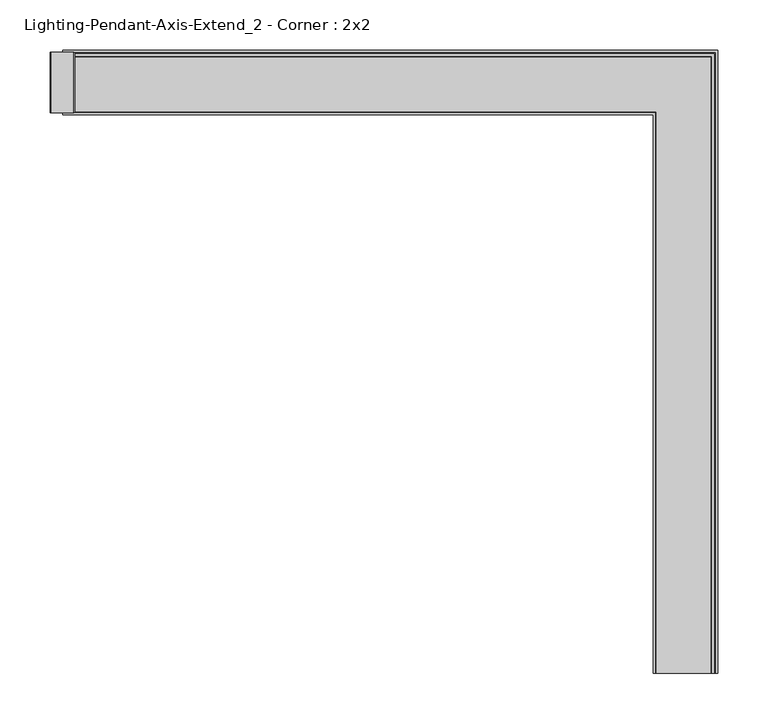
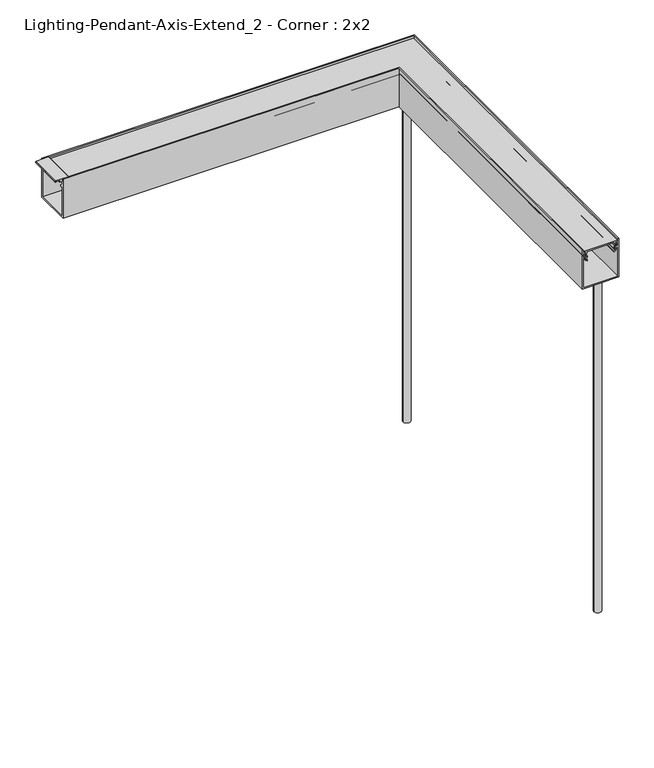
"""IFC4 building model written with IfcOpenShell, lengths in millimetres: light fixture geometry, Lighting-Pendant-Axis-Extend_2 - Corner : 2x2."""

from ifc_helpers import new_model, si_unit, frame, origin, place, context, project, spatial, polyline, circle_curve, ellipse_curve, outline, extrude, source, transform, mapped, element, save
from ifc_brep_helpers import plane_surface, cylinder_surface, revolved_surface, advanced_brep


def lighting_pendant_axis_extend_2_corner_2x2_4e912d8c(model_context):
    return source(origin(), model_context, "Body", "SolidModel", [
        advanced_brep(
        [(311.15, -577.596, 609.6), (298.45, -577.596, 609.6), (304.8, -577.596, 609.6), (311.15, -577.596, 0.0), (298.45, -577.596, 0.0), (304.8, -577.596, 0.0)],
        [
            (0, 1, circle_curve(frame((304.8, -577.596, 609.6), z_axis=(0.0, 0.0, 1.0), x_axis=(-1.0, 0.0, 0.0)), 6.35)),
            (1, 2),
            (2, 0),
            (1, 0, circle_curve(frame((304.8, -577.596, 609.6), z_axis=(0.0, 0.0, 1.0), x_axis=(-1.0, 0.0, 0.0)), 6.35)),
            (3, 4, circle_curve(frame((304.8, -577.596, 0.0), z_axis=(0.0, 0.0, 1.0), x_axis=(-1.0, 0.0, 0.0)), 6.35)),
            (4, 1),
            (0, 3),
            (4, 3, circle_curve(frame((304.8, -577.596, 0.0), z_axis=(0.0, 0.0, 1.0), x_axis=(-1.0, 0.0, 0.0)), 6.35)),
            (5, 4),
            (3, 5),
        ],
        [
            plane_surface(frame((304.8, -577.596, 609.6), z_axis=(0.0, 0.0, 1.0), x_axis=(-1.0, 0.0, 0.0))),
            cylinder_surface(frame((304.8, -577.596, 2913.8581012), z_axis=(0.0, 0.0, -1.0), x_axis=(-1.0, 0.0, 0.0)), 6.35),
            plane_surface(frame((304.8, -577.596, 0.0), z_axis=(0.0, 0.0, -1.0), x_axis=(-1.0, 0.0, 0.0))),
        ],
        [
            (0, [[1, 2, 3]]),
            (0, [[4, -3, -2]]),
            (1, [[5, 6, -1, 7]]),
            (1, [[8, -7, -4, -6]]),
            (2, [[9, -5, 10]]),
            (2, [[-10, -8, -9]]),
        ],
    ),
        extrude(outline(polyline([(679.9357861, -301.8536), (681.0375, -302.7781437), (681.0375, -325.1352563), (679.9357861, -326.0598), (678.46575, -326.0598), (678.46575, -325.26605), (679.2595, -325.26605), (679.2595, -318.7954), (676.4532981, -318.7954), (676.4532981, -309.118), (679.2595, -309.118), (679.2595, -302.64735), (678.46575, -302.64735), (678.46575, -301.8536), (679.9357861, -301.8536)])), frame((0.0, -29.972, 0.0), z_axis=(0.0, 1.0, 0.0), x_axis=(0.0, 0.0, 1.0)), (0.0, 0.0, 1.0), 59.944),
        advanced_brep(
        [(311.15, 0.0, 609.6), (298.45, 0.0, 609.6), (304.8, 0.0, 609.6), (311.15, 0.0, 0.0), (298.45, 0.0, 0.0), (304.8, 0.0, 0.0)],
        [
            (0, 1, circle_curve(frame((304.8, 0.0, 609.6), z_axis=(0.0, 0.0, 1.0), x_axis=(-1.0, 0.0, 0.0)), 6.35)),
            (1, 2),
            (2, 0),
            (1, 0, circle_curve(frame((304.8, 0.0, 609.6), z_axis=(0.0, 0.0, 1.0), x_axis=(-1.0, 0.0, 0.0)), 6.35)),
            (3, 4, circle_curve(frame((304.8, 0.0, 0.0), z_axis=(0.0, 0.0, 1.0), x_axis=(-1.0, 0.0, 0.0)), 6.35)),
            (4, 1),
            (0, 3),
            (4, 3, circle_curve(frame((304.8, 0.0, 0.0), z_axis=(0.0, 0.0, 1.0), x_axis=(-1.0, 0.0, 0.0)), 6.35)),
            (5, 4),
            (3, 5),
        ],
        [
            plane_surface(frame((304.8, 0.0, 609.6), z_axis=(0.0, 0.0, 1.0), x_axis=(-1.0, 0.0, 0.0))),
            cylinder_surface(frame((304.8, 0.0, 2913.8581012), z_axis=(0.0, 0.0, -1.0), x_axis=(-1.0, 0.0, 0.0)), 6.35),
            plane_surface(frame((304.8, 0.0, 0.0), z_axis=(0.0, 0.0, -1.0), x_axis=(-1.0, 0.0, 0.0))),
        ],
        [
            (0, [[1, 2, 3]]),
            (0, [[4, -3, -2]]),
            (1, [[5, 6, -1, 7]]),
            (1, [[8, -7, -4, -6]]),
            (2, [[9, -5, 10]]),
            (2, [[-10, -8, -9]]),
        ],
    ),
        advanced_brep(
        [(-304.8, -24.1727262, 676.1479991), (-304.8, -24.5114181, 669.6853737), (-304.8, -25.3818814, 663.0794903), (-304.8, -24.5665956, 661.5817575), (-304.8, -23.2119066, 660.3823555), (-304.8, -24.192808, 659.0543369), (-304.8, -25.7659952, 660.4471908), (-304.8, -27.1108807, 664.27776), (-304.8, -25.4753941, 668.3169658), (-304.8, -26.1394859, 670.1661789), (-304.8, -25.825992, 676.1479991), (-304.8, -28.829, 676.1479991), (-304.8, -28.829, 678.053), (-304.8, 28.829, 678.053), (-304.8, 28.829, 676.1479991), (-304.8, 25.825992, 676.1479991), (-304.8, 26.1394859, 670.1661789), (-304.8, 25.4753941, 668.3169658), (-304.8, 27.1108807, 664.27776), (-304.8, 25.7659952, 660.4471908), (-304.8, 24.192808, 659.0543369), (-304.8, 23.2119066, 660.3823555), (-304.8, 24.5665956, 661.5817575), (-304.8, 25.3818814, 663.0794903), (-304.8, 24.5114181, 669.6853737), (-304.8, 24.1727262, 676.1479991), (280.6272738, -586.7527, 676.1479991), (328.9727262, -586.7527, 676.1479991), (329.3114181, -586.7527, 669.6853737), (330.1818814, -586.7527, 663.0794903), (329.3665956, -586.7527, 661.5817575), (328.0119066, -586.7527, 660.3823555), (328.992808, -586.7527, 659.0543369), (330.5659952, -586.7527, 660.4471908), (331.9108807, -586.7527, 664.27776), (330.2753941, -586.7527, 668.3169658), (330.9394859, -586.7527, 670.1661789), (330.625992, -586.7527, 676.1479991), (333.629, -586.7527, 676.1479991), (333.629, -586.7527, 678.053), (275.971, -586.7527, 678.053), (275.971, -586.7527, 676.1479991), (278.974008, -586.7527, 676.1479991), (278.6605141, -586.7527, 670.1661789), (279.3246059, -586.7527, 668.3169658), (277.6891193, -586.7527, 664.27776), (279.0340048, -586.7527, 660.4471908), (280.607192, -586.7527, 659.0543369), (281.5880934, -586.7527, 660.3823555), (280.2334044, -586.7527, 661.5817575), (279.4181186, -586.7527, 663.0794903), (280.2885819, -586.7527, 669.6853737), (280.6272738, -24.1727262, 676.1479991), (280.2885819, -24.5114181, 669.6853737), (279.4181186, -25.3818814, 663.0794903), (280.2334044, -24.5665956, 661.5817575), (281.5880934, -23.2119066, 660.3823555), (280.607192, -24.192808, 659.0543369), (279.0340048, -25.7659952, 660.4471908), (277.6891193, -27.1108807, 664.27776), (279.3246059, -25.4753941, 668.3169658), (278.6605141, -26.1394859, 670.1661789), (278.974008, -25.825992, 676.1479991), (275.971, -28.829, 676.1479991), (275.971, -28.829, 678.053), (333.629, 28.829, 678.053), (333.629, 28.829, 676.1479991), (330.625992, 25.825992, 676.1479991), (330.9394859, 26.1394859, 670.1661789), (330.2753941, 25.4753941, 668.3169658), (331.9108807, 27.1108807, 664.27776), (330.5659952, 25.7659952, 660.4471908), (328.992808, 24.192808, 659.0543369), (328.0119066, 23.2119066, 660.3823555), (329.3665956, 24.5665956, 661.5817575), (330.1818814, 25.3818814, 663.0794903), (329.3114181, 24.5114181, 669.6853737), (328.9727262, 24.1727262, 676.1479991)],
        [
            (0, 1),
            (1, 2, circle_curve(frame((-304.8, -27.2542, 666.6865), z_axis=(-1.0, 0.0, 0.0), x_axis=(0.0, 0.6748971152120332, 0.7379118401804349)), 4.064)),
            (2, 3, circle_curve(frame((-304.8, -22.149344, 663.8683457), z_axis=(1.0, 0.0, 0.0), x_axis=(0.0, -0.9714904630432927, -0.23707863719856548)), 3.3274001)),
            (3, 4, circle_curve(frame((-304.8, -17.1303177, 668.6160708), z_axis=(1.0, 0.0, 0.0), x_axis=(0.0, -0.7264901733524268, -0.68717685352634)), 10.2362001)),
            (4, 5, circle_curve(frame((-304.8, -23.7023573, 659.7183462), z_axis=(-1.0, 0.0, 0.0), x_axis=(0.0, 0.5941256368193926, 0.8043722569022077)), 0.8255)),
            (5, 6, circle_curve(frame((-304.8, -17.1303169, 668.6160717), z_axis=(-1.0, 0.0, 0.0), x_axis=(0.0, -0.594125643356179, -0.8043722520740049)), 11.8872013)),
            (6, 7, circle_curve(frame((-304.8, -22.149344, 663.8683457), z_axis=(-1.0, 0.0, 0.0), x_axis=(0.0, -0.7264685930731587, -0.6871996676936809)), 4.9784001)),
            (7, 8, circle_curve(frame((-304.8, -27.2542, 666.6865), z_axis=(1.0, 0.0, 0.0), x_axis=(0.0, 0.05939464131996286, -0.9982345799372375)), 2.413)),
            (8, 9, circle_curve(frame((-304.8, -23.6029669, 670.0332456), z_axis=(-1.0, 0.0, 0.0), x_axis=(0.0, -0.7371760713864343, -0.675700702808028)), 2.54)),
            (9, 10),
            (10, 11),
            (11, 12),
            (12, 13),
            (13, 14),
            (14, 15),
            (15, 16),
            (16, 17, circle_curve(frame((-304.8, 23.6029669, 670.0332456), z_axis=(-1.0, 0.0, 0.0), x_axis=(0.0, 0.9986295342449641, 0.05233596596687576)), 2.54)),
            (17, 18, circle_curve(frame((-304.8, 27.2542, 666.6865), z_axis=(1.0, 0.0, 0.0), x_axis=(0.0, -0.7371760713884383, 0.6757007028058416)), 2.413)),
            (18, 19, circle_curve(frame((-304.8, 22.149344, 663.8683457), z_axis=(-1.0, 0.0, 0.0), x_axis=(0.0, 0.9966127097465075, 0.0822381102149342)), 4.9784001)),
            (19, 20, circle_curve(frame((-304.8, 17.1303169, 668.6160717), z_axis=(-1.0, 0.0, 0.0), x_axis=(0.0, 0.7264685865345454, -0.6871996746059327)), 11.8872013)),
            (20, 21, circle_curve(frame((-304.8, 23.7023573, 659.7183462), z_axis=(-1.0, 0.0, 0.0), x_axis=(0.0, 0.5941256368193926, -0.8043722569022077)), 0.8255)),
            (21, 22, circle_curve(frame((-304.8, 17.1303177, 668.6160708), z_axis=(1.0, 0.0, 0.0), x_axis=(0.0, 0.5941256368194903, -0.8043722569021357)), 10.2362001)),
            (22, 23, circle_curve(frame((-304.8, 22.149344, 663.8683457), z_axis=(1.0, 0.0, 0.0), x_axis=(0.0, 0.7265349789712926, -0.6871294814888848)), 3.3274001)),
            (23, 24, circle_curve(frame((-304.8, 27.2542, 666.6865), z_axis=(-1.0, 0.0, 0.0), x_axis=(0.0, -0.46070831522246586, -0.8875516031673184)), 4.064)),
            (24, 25),
            (25, 0),
            (26, 27),
            (27, 28),
            (28, 29, circle_curve(frame((332.0542, -586.7527, 666.6865), z_axis=(0.0, -1.0, 0.0), x_axis=(-0.46070831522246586, 0.0, -0.8875516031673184)), 4.064)),
            (29, 30, circle_curve(frame((326.949344, -586.7527, 663.8683457), z_axis=(0.0, 1.0, 0.0), x_axis=(0.7265349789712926, 0.0, -0.6871294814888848)), 3.3274001)),
            (30, 31, circle_curve(frame((321.9303177, -586.7527, 668.6160708), z_axis=(0.0, 1.0, 0.0), x_axis=(0.5941256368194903, 0.0, -0.8043722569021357)), 10.2362001)),
            (31, 32, circle_curve(frame((328.5023573, -586.7527, 659.7183462), z_axis=(0.0, -1.0, 0.0), x_axis=(0.5941256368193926, 0.0, -0.8043722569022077)), 0.8255)),
            (32, 33, circle_curve(frame((321.9303169, -586.7527, 668.6160717), z_axis=(0.0, -1.0, 0.0), x_axis=(0.7264685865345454, 0.0, -0.6871996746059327)), 11.8872013)),
            (33, 34, circle_curve(frame((326.949344, -586.7527, 663.8683457), z_axis=(0.0, -1.0, 0.0), x_axis=(0.9966127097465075, 0.0, 0.0822381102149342)), 4.9784001)),
            (34, 35, circle_curve(frame((332.0542, -586.7527, 666.6865), z_axis=(0.0, 1.0, 0.0), x_axis=(-0.7371760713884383, 0.0, 0.6757007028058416)), 2.413)),
            (35, 36, circle_curve(frame((328.4029669, -586.7527, 670.0332456), z_axis=(0.0, -1.0, 0.0), x_axis=(0.9986295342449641, 0.0, 0.05233596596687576)), 2.54)),
            (36, 37),
            (37, 38),
            (38, 39),
            (39, 40),
            (40, 41),
            (41, 42),
            (42, 43),
            (43, 44, circle_curve(frame((281.1970331, -586.7527, 670.0332456), z_axis=(0.0, -1.0, 0.0), x_axis=(-0.7371760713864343, 0.0, -0.675700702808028)), 2.54)),
            (44, 45, circle_curve(frame((277.5458, -586.7527, 666.6865), z_axis=(0.0, 1.0, 0.0), x_axis=(0.05939464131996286, 0.0, -0.9982345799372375)), 2.413)),
            (45, 46, circle_curve(frame((282.650656, -586.7527, 663.8683457), z_axis=(0.0, -1.0, 0.0), x_axis=(-0.7264685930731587, 0.0, -0.6871996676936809)), 4.9784001)),
            (46, 47, circle_curve(frame((287.6696831, -586.7527, 668.6160717), z_axis=(0.0, -1.0, 0.0), x_axis=(-0.594125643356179, 0.0, -0.8043722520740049)), 11.8872013)),
            (47, 48, circle_curve(frame((281.0976427, -586.7527, 659.7183462), z_axis=(0.0, -1.0, 0.0), x_axis=(0.5941256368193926, 0.0, 0.8043722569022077)), 0.8255)),
            (48, 49, circle_curve(frame((287.6696823, -586.7527, 668.6160708), z_axis=(0.0, 1.0, 0.0), x_axis=(-0.7264901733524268, 0.0, -0.68717685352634)), 10.2362001)),
            (49, 50, circle_curve(frame((282.650656, -586.7527, 663.8683457), z_axis=(0.0, 1.0, 0.0), x_axis=(-0.9714904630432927, 0.0, -0.23707863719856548)), 3.3274001)),
            (50, 51, circle_curve(frame((277.5458, -586.7527, 666.6865), z_axis=(0.0, -1.0, 0.0), x_axis=(0.6748971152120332, 0.0, 0.7379118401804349)), 4.064)),
            (51, 26),
            (0, 52),
            (52, 53),
            (53, 1),
            (53, 54, ellipse_curve(frame((277.5458, -27.2542, 666.6865), z_axis=(-0.7071067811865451, 0.7071067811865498, 0.0), x_axis=(-0.70710678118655, -0.7071067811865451, 0.0)), 5.7473639, 4.064)),
            (54, 2),
            (54, 55, ellipse_curve(frame((282.650656, -22.149344, 663.8683457), z_axis=(0.7071067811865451, -0.7071067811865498, 0.0), x_axis=(0.70710678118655, 0.7071067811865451, 0.0)), 4.7056543, 3.3274001)),
            (55, 3),
            (55, 56, ellipse_curve(frame((287.6696823, -17.1303177, 668.6160708), z_axis=(0.7071067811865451, -0.7071067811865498, 0.0), x_axis=(0.70710678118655, 0.7071067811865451, 0.0)), 14.476173, 10.2362001)),
            (56, 4),
            (56, 57, ellipse_curve(frame((281.0976427, -23.7023573, 659.7183462), z_axis=(-0.7071067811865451, 0.7071067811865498, 0.0), x_axis=(-0.70710678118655, -0.7071067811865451, 0.0)), 1.1674333, 0.8255)),
            (57, 5),
            (57, 58, ellipse_curve(frame((287.6696831, -17.1303169, 668.6160717), z_axis=(-0.7071067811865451, 0.7071067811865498, 0.0), x_axis=(-0.70710678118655, -0.7071067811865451, 0.0)), 16.8110412, 11.8872013)),
            (58, 6),
            (58, 59, ellipse_curve(frame((282.650656, -22.149344, 663.8683457), z_axis=(-0.7071067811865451, 0.7071067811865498, 0.0), x_axis=(-0.70710678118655, -0.7071067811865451, 0.0)), 7.0405209, 4.9784001)),
            (59, 7),
            (59, 60, ellipse_curve(frame((277.5458, -27.2542, 666.6865), z_axis=(0.7071067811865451, -0.7071067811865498, 0.0), x_axis=(0.70710678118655, 0.7071067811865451, 0.0)), 3.4124973, 2.413)),
            (60, 8),
            (60, 61, ellipse_curve(frame((281.1970331, -23.6029669, 670.0332456), z_axis=(-0.7071067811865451, 0.7071067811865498, 0.0), x_axis=(-0.70710678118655, -0.7071067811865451, 0.0)), 3.5921024, 2.54)),
            (61, 9),
            (61, 62),
            (62, 10),
            (62, 42),
            (41, 63),
            (63, 11),
            (63, 64),
            (64, 12),
            (64, 40),
            (39, 65),
            (65, 13),
            (65, 66),
            (66, 14),
            (66, 38),
            (37, 67),
            (67, 15),
            (67, 68),
            (68, 16),
            (68, 69, ellipse_curve(frame((328.4029669, 23.6029669, 670.0332456), z_axis=(-0.7071067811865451, 0.7071067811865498, 0.0), x_axis=(-0.70710678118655, -0.7071067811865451, 0.0)), 3.5921024, 2.54)),
            (69, 17),
            (69, 70, ellipse_curve(frame((332.0542, 27.2542, 666.6865), z_axis=(0.7071067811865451, -0.7071067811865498, 0.0), x_axis=(0.70710678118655, 0.7071067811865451, 0.0)), 3.4124973, 2.413)),
            (70, 18),
            (70, 71, ellipse_curve(frame((326.949344, 22.149344, 663.8683457), z_axis=(-0.7071067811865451, 0.7071067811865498, 0.0), x_axis=(-0.70710678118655, -0.7071067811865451, 0.0)), 7.0405209, 4.9784001)),
            (71, 19),
            (71, 72, ellipse_curve(frame((321.9303169, 17.1303169, 668.6160717), z_axis=(-0.7071067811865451, 0.7071067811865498, 0.0), x_axis=(-0.70710678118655, -0.7071067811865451, 0.0)), 16.8110412, 11.8872013)),
            (72, 20),
            (72, 73, ellipse_curve(frame((328.5023573, 23.7023573, 659.7183462), z_axis=(-0.7071067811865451, 0.7071067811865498, 0.0), x_axis=(-0.70710678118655, -0.7071067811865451, 0.0)), 1.1674333, 0.8255)),
            (73, 21),
            (73, 74, ellipse_curve(frame((321.9303177, 17.1303177, 668.6160708), z_axis=(0.7071067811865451, -0.7071067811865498, 0.0), x_axis=(0.70710678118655, 0.7071067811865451, 0.0)), 14.476173, 10.2362001)),
            (74, 22),
            (74, 75, ellipse_curve(frame((326.949344, 22.149344, 663.8683457), z_axis=(0.7071067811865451, -0.7071067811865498, 0.0), x_axis=(0.70710678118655, 0.7071067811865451, 0.0)), 4.7056543, 3.3274001)),
            (75, 23),
            (75, 76, ellipse_curve(frame((332.0542, 27.2542, 666.6865), z_axis=(-0.7071067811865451, 0.7071067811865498, 0.0), x_axis=(-0.70710678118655, -0.7071067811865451, 0.0)), 5.7473639, 4.064)),
            (76, 24),
            (76, 77),
            (77, 25),
            (77, 27),
            (26, 52),
            (51, 53),
            (50, 54),
            (49, 55),
            (48, 56),
            (47, 57),
            (46, 58),
            (45, 59),
            (44, 60),
            (43, 61),
            (36, 68),
            (35, 69),
            (34, 70),
            (33, 71),
            (32, 72),
            (31, 73),
            (30, 74),
            (29, 75),
            (28, 76),
        ],
        [
            plane_surface(frame((-304.8, 0.0, 0.0), z_axis=(-1.0, 0.0, 0.0), x_axis=(0.0, 0.0, 1.0))),
            plane_surface(frame((304.8, -586.7527, 0.0), z_axis=(0.0, -1.0, 0.0), x_axis=(0.0, 0.0, 1.0))),
            plane_surface(frame((-304.8, -24.1727262, 676.1479991), z_axis=(0.0, 0.9986295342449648, -0.05233596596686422), x_axis=(1.0, 0.0, 0.0))),
            cylinder_surface(frame((-304.8, -27.2542, 666.6865), z_axis=(-1.0, 0.0, 0.0), x_axis=(0.0, 0.6748971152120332, 0.7379118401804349)), 4.064),
            revolved_surface(polyline([(285.97805606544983, -25.3818814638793, 663.0794902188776), (-304.8, -25.3818814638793, 663.0794902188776)]), (-304.8, -22.149344, 663.8683457), (1.0000000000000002, 0.0, 0.0)),
            revolved_surface(polyline([(297.9058823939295, -24.566816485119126, 661.581991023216), (-304.8, -24.566816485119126, 661.581991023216)]), (-304.8, -17.1303177, 668.6160708), (1.0, 0.0, 0.0)),
            cylinder_surface(frame((-304.8, -23.7023573, 659.7183462), z_axis=(-1.0, 0.0, 0.0), x_axis=(0.0, 0.5941256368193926, 0.8043722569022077)), 0.8255),
            cylinder_surface(frame((-304.8, -17.1303169, 668.6160717), z_axis=(-1.0, 0.0, 0.0), x_axis=(0.0, -0.594125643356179, -0.8043722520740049)), 11.8872013),
            cylinder_surface(frame((-304.8, -22.149344, 663.8683457), z_axis=(-1.0, 0.0, 0.0), x_axis=(0.0, -0.7264685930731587, -0.6871996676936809)), 4.9784001),
            revolved_surface(polyline([(279.95879998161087, -27.11088073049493, 664.2777599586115), (-304.8, -27.11088073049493, 664.2777599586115)]), (-304.8, -27.2542, 666.6865), (1.0, 0.0, 0.0)),
            cylinder_surface(frame((-304.8, -23.6029669, 670.0332456), z_axis=(-1.0, 0.0, 0.0), x_axis=(0.0, -0.7371760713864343, -0.675700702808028)), 2.54),
            plane_surface(frame((-304.8, -26.1394859, 670.1661789), z_axis=(0.0, -0.9986295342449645, 0.05233596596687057), x_axis=(1.0, 0.0, 0.0))),
            plane_surface(frame((-304.8, -25.825992, 676.1479991), z_axis=(0.0, 0.0, -1.0), x_axis=(1.0, 0.0, 0.0))),
            plane_surface(frame((-304.8, -28.829, 676.1479991), z_axis=(0.0, -1.0, 0.0), x_axis=(1.0, 0.0, 0.0))),
            plane_surface(frame((-304.8, -28.829, 678.053), z_axis=(0.0, 0.0, 1.0), x_axis=(1.0, 0.0, 0.0))),
            plane_surface(frame((-304.8, 28.829, 678.053), z_axis=(0.0, 1.0, 0.0), x_axis=(1.0, 0.0, 0.0))),
            plane_surface(frame((-304.8, 28.829, 676.1479991), z_axis=(0.0, 0.0, -1.0), x_axis=(1.0, 0.0, 0.0))),
            plane_surface(frame((-304.8, 25.825992, 676.1479991), z_axis=(0.0, 0.9986295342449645, 0.05233596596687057), x_axis=(1.0, 0.0, 0.0))),
            cylinder_surface(frame((-304.8, 23.6029669, 670.0332456), z_axis=(-1.0, 0.0, 0.0), x_axis=(0.0, 0.9986295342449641, 0.05233596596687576)), 2.54),
            revolved_surface(polyline([(334.46719998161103, 25.4753941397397, 668.3169657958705), (-304.8, 25.4753941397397, 668.3169657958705)]), (-304.8, 27.2542, 666.6865), (1.0000000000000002, 0.0, 0.0)),
            cylinder_surface(frame((-304.8, 22.149344, 663.8683457), z_axis=(-1.0000000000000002, 0.0, 0.0), x_axis=(0.0, 0.9966127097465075, 0.0822381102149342)), 4.9784001),
            cylinder_surface(frame((-304.8, 17.1303169, 668.6160717), z_axis=(-1.0, 0.0, 0.0), x_axis=(0.0, 0.7264685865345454, -0.6871996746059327)), 11.8872013),
            cylinder_surface(frame((-304.8, 23.7023573, 659.7183462), z_axis=(-1.0, 0.0, 0.0), x_axis=(0.0, 0.5941256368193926, -0.8043722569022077)), 0.8255),
            revolved_surface(polyline([(332.1665177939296, 23.21190660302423, 660.3823554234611), (-304.8, 23.21190660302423, 660.3823554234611)]), (-304.8, 17.1303177, 668.6160708), (1.0, 0.0, 0.0)),
            revolved_surface(polyline([(330.2767440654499, 24.566816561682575, 661.5819909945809), (-304.8, 24.566816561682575, 661.5819909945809)]), (-304.8, 22.149344, 663.8683457), (1.0000000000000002, 0.0, 0.0)),
            cylinder_surface(frame((-304.8, 27.2542, 666.6865), z_axis=(-1.0, 0.0, 0.0), x_axis=(0.0, -0.46070831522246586, -0.8875516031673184)), 4.064),
            plane_surface(frame((-304.8, 24.5114181, 669.6853737), z_axis=(0.0, -0.9986295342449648, -0.05233596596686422), x_axis=(1.0, 0.0, 0.0))),
            plane_surface(frame((-304.8, 24.1727262, 676.1479991), z_axis=(0.0, 0.0, -1.0), x_axis=(1.0, 0.0, 0.0))),
            plane_surface(frame((280.6272738, -24.1727262, 676.1479991), z_axis=(0.9986295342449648, 0.0, -0.05233596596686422), x_axis=(0.0, -1.0, 0.0))),
            cylinder_surface(frame((277.5458, 0.0, 666.6865), z_axis=(0.0, 1.0, 0.0), x_axis=(0.6748971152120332, 0.0, 0.7379118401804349)), 4.064),
            revolved_surface(polyline([(279.41811853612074, -586.7527000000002, 663.0794902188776), (279.41811853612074, -18.82194393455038, 663.0794902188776)]), (282.650656, 0.0, 663.8683457), (0.0, -1.0000000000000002, 0.0)),
            revolved_surface(polyline([(280.23318351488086, -586.7527, 661.581991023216), (280.23318351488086, -6.894117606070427, 661.581991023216)]), (287.6696823, 0.0, 668.6160708), (0.0, -1.0, 0.0)),
            cylinder_surface(frame((281.0976427, 0.0, 659.7183462), z_axis=(0.0, 1.0, 0.0), x_axis=(0.5941256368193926, 0.0, 0.8043722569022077)), 0.8255),
            cylinder_surface(frame((287.6696831, 0.0, 668.6160717), z_axis=(0.0, 1.0, 0.0), x_axis=(-0.594125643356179, 0.0, -0.8043722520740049)), 11.8872013),
            cylinder_surface(frame((282.650656, 0.0, 663.8683457), z_axis=(0.0, 1.0, 0.0), x_axis=(-0.7264685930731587, 0.0, -0.6871996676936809)), 4.9784001),
            revolved_surface(polyline([(277.68911926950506, -586.7527, 664.2777599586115), (277.68911926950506, -24.841200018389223, 664.2777599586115)]), (277.5458, 0.0, 666.6865), (0.0, -1.0, 0.0)),
            cylinder_surface(frame((281.1970331, 0.0, 670.0332456), z_axis=(0.0, 1.0, 0.0), x_axis=(-0.7371760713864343, 0.0, -0.675700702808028)), 2.54),
            plane_surface(frame((278.6605141, -26.1394859, 670.1661789), z_axis=(-0.9986295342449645, 0.0, 0.05233596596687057), x_axis=(0.0, -1.0, 0.0))),
            plane_surface(frame((275.971, -28.829, 676.1479991), z_axis=(-1.0, 0.0, 0.0), x_axis=(0.0, -1.0, 0.0))),
            plane_surface(frame((333.629, 28.829, 678.053), z_axis=(1.0, 0.0, 0.0), x_axis=(0.0, -1.0, 0.0))),
            plane_surface(frame((330.625992, 25.825992, 676.1479991), z_axis=(0.9986295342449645, 0.0, 0.05233596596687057), x_axis=(0.0, -1.0, 0.0))),
            cylinder_surface(frame((328.4029669, 0.0, 670.0332456), z_axis=(0.0, 1.0, 0.0), x_axis=(0.9986295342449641, 0.0, 0.05233596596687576)), 2.54),
            revolved_surface(polyline([(330.27539413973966, -586.7527000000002, 668.3169657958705), (330.27539413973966, 29.667199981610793, 668.3169657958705)]), (332.0542, 0.0, 666.6865), (0.0, -1.0000000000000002, 0.0)),
            cylinder_surface(frame((326.949344, 0.0, 663.8683457), z_axis=(0.0, 1.0000000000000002, 0.0), x_axis=(0.9966127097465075, 0.0, 0.0822381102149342)), 4.9784001),
            cylinder_surface(frame((321.9303169, 0.0, 668.6160717), z_axis=(0.0, 1.0, 0.0), x_axis=(0.7264685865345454, 0.0, -0.6871996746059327)), 11.8872013),
            cylinder_surface(frame((328.5023573, 0.0, 659.7183462), z_axis=(0.0, 1.0, 0.0), x_axis=(0.5941256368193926, 0.0, -0.8043722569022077)), 0.8255),
            revolved_surface(polyline([(328.0119066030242, -586.7527, 660.3823554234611), (328.0119066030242, 27.36651779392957, 660.3823554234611)]), (321.9303177, 0.0, 668.6160708), (0.0, -1.0, 0.0)),
            revolved_surface(polyline([(329.3668165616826, -586.7527000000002, 661.5819909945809), (329.3668165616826, 25.476744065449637, 661.5819909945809)]), (326.949344, 0.0, 663.8683457), (0.0, -1.0000000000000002, 0.0)),
            cylinder_surface(frame((332.0542, 0.0, 666.6865), z_axis=(0.0, 1.0, 0.0), x_axis=(-0.46070831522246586, 0.0, -0.8875516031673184)), 4.064),
            plane_surface(frame((329.3114181, 24.5114181, 669.6853737), z_axis=(-0.9986295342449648, 0.0, -0.05233596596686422), x_axis=(0.0, -1.0, 0.0))),
        ],
        [
            (0, [[1, 2, 3, 4, 5, 6, 7, 8, 9, 10, 11, 12, 13, 14, 15, 16, 17, 18, 19, 20, 21, 22, 23, 24, 25, 26]]),
            (1, [[27, 28, 29, 30, 31, 32, 33, 34, 35, 36, 37, 38, 39, 40, 41, 42, 43, 44, 45, 46, 47, 48, 49, 50, 51, 52]]),
            (2, [[-1, 53, 54, 55]]),
            (3, [[-2, -55, 56, 57]]),
            (4, [[-3, -57, 58, 59]]),
            (5, [[-4, -59, 60, 61]]),
            (6, [[-5, -61, 62, 63]]),
            (7, [[-6, -63, 64, 65]]),
            (8, [[-7, -65, 66, 67]]),
            (9, [[-8, -67, 68, 69]]),
            (10, [[-9, -69, 70, 71]]),
            (11, [[-10, -71, 72, 73]]),
            (12, [[-11, -73, 74, -42, 75, 76]]),
            (13, [[-12, -76, 77, 78]]),
            (14, [[-13, -78, 79, -40, 80, 81]]),
            (15, [[-14, -81, 82, 83]]),
            (16, [[-15, -83, 84, -38, 85, 86]]),
            (17, [[-16, -86, 87, 88]]),
            (18, [[-17, -88, 89, 90]]),
            (19, [[-18, -90, 91, 92]]),
            (20, [[-19, -92, 93, 94]]),
            (21, [[-20, -94, 95, 96]]),
            (22, [[-21, -96, 97, 98]]),
            (23, [[-22, -98, 99, 100]]),
            (24, [[-23, -100, 101, 102]]),
            (25, [[-24, -102, 103, 104]]),
            (26, [[-25, -104, 105, 106]]),
            (27, [[-26, -106, 107, -27, 108, -53]]),
            (28, [[-54, -108, -52, 109]]),
            (29, [[-56, -109, -51, 110]]),
            (30, [[-58, -110, -50, 111]]),
            (31, [[-60, -111, -49, 112]]),
            (32, [[-62, -112, -48, 113]]),
            (33, [[-64, -113, -47, 114]]),
            (34, [[-66, -114, -46, 115]]),
            (35, [[-68, -115, -45, 116]]),
            (36, [[-70, -116, -44, 117]]),
            (37, [[-72, -117, -43, -74]]),
            (38, [[-77, -75, -41, -79]]),
            (39, [[-82, -80, -39, -84]]),
            (40, [[-87, -85, -37, 118]]),
            (41, [[-89, -118, -36, 119]]),
            (42, [[-91, -119, -35, 120]]),
            (43, [[-93, -120, -34, 121]]),
            (44, [[-95, -121, -33, 122]]),
            (45, [[-97, -122, -32, 123]]),
            (46, [[-99, -123, -31, 124]]),
            (47, [[-101, -124, -30, 125]]),
            (48, [[-103, -125, -29, 126]]),
            (49, [[-105, -126, -28, -107]]),
        ],
    ),
        advanced_brep(
        [(-313.9567, -29.972, 666.1277), (-313.9567, -29.972, 611.632), (-313.9567, 29.972, 611.632), (-313.9567, 29.972, 666.1277), (-313.9567, 28.1325797, 666.1277), (-313.9567, 25.8730546, 664.8231626), (-313.9567, 24.6896516, 667.0783682), (-313.9567, 28.067, 669.9123), (-313.9567, 28.067, 668.1597), (-313.9567, 29.972, 668.1597), (-313.9567, 29.972, 674.6875), (-313.9567, 28.067, 674.6875), (-313.9567, 28.067, 673.1635), (-313.9567, 26.416, 673.2500252), (-313.9567, 26.416, 675.9575), (-313.9567, 29.972, 675.9575), (-313.9567, 29.972, 681.0375), (-313.9567, 32.004, 681.0375), (-313.9567, 32.004, 609.6), (-313.9567, -32.004, 609.6), (-313.9567, -32.004, 681.0375), (-313.9567, -29.972, 681.0375), (-313.9567, -29.972, 675.9575), (-313.9567, -26.416, 675.9575), (-313.9567, -26.416, 673.2500252), (-313.9567, -28.067, 673.1635), (-313.9567, -28.067, 674.6875), (-313.9567, -29.972, 674.6875), (-313.9567, -29.972, 668.1597), (-313.9567, -28.067, 668.1597), (-313.9567, -28.067, 669.9123), (-313.9567, -24.6896516, 667.0783682), (-313.9567, -25.8730546, 664.8231626), (-313.9567, -28.1325797, 666.1277), (274.828, -586.7527, 666.1277), (276.6674203, -586.7527, 666.1277), (278.9269454, -586.7527, 664.8231626), (280.1103484, -586.7527, 667.0783682), (276.733, -586.7527, 669.9123), (276.733, -586.7527, 668.1597), (274.828, -586.7527, 668.1597), (274.828, -586.7527, 674.6875), (276.733, -586.7527, 674.6875), (276.733, -586.7527, 673.1635), (278.384, -586.7527, 673.2500252), (278.384, -586.7527, 675.9575), (274.828, -586.7527, 675.9575), (274.828, -586.7527, 681.0375), (272.796, -586.7527, 681.0375), (272.796, -586.7527, 609.6), (336.804, -586.7527, 609.6), (336.804, -586.7527, 681.0375), (334.772, -586.7527, 681.0375), (334.772, -586.7527, 675.9575), (331.216, -586.7527, 675.9575), (331.216, -586.7527, 673.2500252), (332.867, -586.7527, 673.1635), (332.867, -586.7527, 674.6875), (334.772, -586.7527, 674.6875), (334.772, -586.7527, 668.1597), (332.867, -586.7527, 668.1597), (332.867, -586.7527, 669.9123), (329.4896516, -586.7527, 667.0783682), (330.6730546, -586.7527, 664.8231626), (332.9325797, -586.7527, 666.1277), (334.772, -586.7527, 666.1277), (334.772, -586.7527, 611.632), (274.828, -586.7527, 611.632), (274.828, -29.972, 666.1277), (274.828, -29.972, 611.632), (334.772, 29.972, 611.632), (334.772, 29.972, 666.1277), (332.9325797, 28.1325797, 666.1277), (330.6730546, 25.8730546, 664.8231626), (329.4896516, 24.6896516, 667.0783682), (332.867, 28.067, 669.9123), (332.867, 28.067, 668.1597), (334.772, 29.972, 668.1597), (334.772, 29.972, 674.6875), (332.867, 28.067, 674.6875), (332.867, 28.067, 673.1635), (331.216, 26.416, 673.2500252), (331.216, 26.416, 675.9575), (334.772, 29.972, 675.9575), (334.772, 29.972, 681.0375), (336.804, 32.004, 681.0375), (336.804, 32.004, 609.6), (272.796, -32.004, 609.6), (272.796, -32.004, 681.0375), (274.828, -29.972, 681.0375), (274.828, -29.972, 675.9575), (278.384, -26.416, 675.9575), (278.384, -26.416, 673.2500252), (276.733, -28.067, 673.1635), (276.733, -28.067, 674.6875), (274.828, -29.972, 674.6875), (274.828, -29.972, 668.1597), (276.733, -28.067, 668.1597), (276.733, -28.067, 669.9123), (280.1103484, -24.6896516, 667.0783682), (278.9269454, -25.8730546, 664.8231626), (276.6674203, -28.1325797, 666.1277)],
        [
            (0, 1),
            (1, 2),
            (2, 3),
            (3, 4),
            (4, 5, circle_curve(frame((-313.9567, 26.6262297, 666.1277), z_axis=(-1.0, 0.0, 0.0), x_axis=(0.0, -0.5000000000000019, -0.8660254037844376)), 1.5063501)),
            (5, 6, circle_curve(frame((-313.9567, 27.0642121, 666.8863079), z_axis=(-1.0, 0.0, 0.0), x_axis=(0.0, -0.9967449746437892, 0.08061920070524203)), 2.382315)),
            (6, 7),
            (7, 8),
            (8, 9),
            (9, 10),
            (10, 11),
            (11, 12),
            (12, 13),
            (13, 14),
            (14, 15),
            (15, 16),
            (16, 17),
            (17, 18),
            (18, 19),
            (19, 20),
            (20, 21),
            (21, 22),
            (22, 23),
            (23, 24),
            (24, 25),
            (25, 26),
            (26, 27),
            (27, 28),
            (28, 29),
            (29, 30),
            (30, 31),
            (31, 32, circle_curve(frame((-313.9567, -27.0642121, 666.8863079), z_axis=(-1.0, 0.0, 0.0), x_axis=(0.0, 0.5000000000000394, -0.866025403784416)), 2.382315)),
            (32, 33, circle_curve(frame((-313.9567, -26.6262297, 666.1277), z_axis=(-1.0, 0.0, 0.0), x_axis=(0.0, -1.0, 0.0)), 1.5063501)),
            (33, 0),
            (34, 35),
            (35, 36, circle_curve(frame((278.1737703, -586.7527, 666.1277), z_axis=(0.0, -1.0, 0.0), x_axis=(-1.0, 0.0, 0.0)), 1.5063501)),
            (36, 37, circle_curve(frame((277.7357879, -586.7527, 666.8863079), z_axis=(0.0, -1.0, 0.0), x_axis=(0.5000000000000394, 0.0, -0.866025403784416)), 2.382315)),
            (37, 38),
            (38, 39),
            (39, 40),
            (40, 41),
            (41, 42),
            (42, 43),
            (43, 44),
            (44, 45),
            (45, 46),
            (46, 47),
            (47, 48),
            (48, 49),
            (49, 50),
            (50, 51),
            (51, 52),
            (52, 53),
            (53, 54),
            (54, 55),
            (55, 56),
            (56, 57),
            (57, 58),
            (58, 59),
            (59, 60),
            (60, 61),
            (61, 62),
            (62, 63, circle_curve(frame((331.8642121, -586.7527, 666.8863079), z_axis=(0.0, -1.0, 0.0), x_axis=(-0.9967449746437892, 0.0, 0.08061920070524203)), 2.382315)),
            (63, 64, circle_curve(frame((331.4262297, -586.7527, 666.1277), z_axis=(0.0, -1.0, 0.0), x_axis=(-0.5000000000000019, 0.0, -0.8660254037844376)), 1.5063501)),
            (64, 65),
            (65, 66),
            (66, 67),
            (67, 34),
            (0, 68),
            (68, 69),
            (69, 1),
            (69, 67),
            (66, 70),
            (70, 2),
            (70, 71),
            (71, 3),
            (71, 65),
            (64, 72),
            (72, 4),
            (72, 73, ellipse_curve(frame((331.4262297, 26.6262297, 666.1277), z_axis=(-0.7071067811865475, 0.7071067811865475, 0.0), x_axis=(-0.7071067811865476, -0.7071067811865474, 0.0)), 2.1303007, 1.5063501)),
            (73, 5),
            (73, 74, ellipse_curve(frame((331.8642121, 27.0642121, 666.8863079), z_axis=(-0.7071067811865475, 0.7071067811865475, 0.0), x_axis=(-0.7071067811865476, -0.7071067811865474, 0.0)), 3.3691022, 2.382315)),
            (74, 6),
            (74, 75),
            (75, 7),
            (75, 76),
            (76, 8),
            (76, 60),
            (59, 77),
            (77, 9),
            (77, 78),
            (78, 10),
            (78, 58),
            (57, 79),
            (79, 11),
            (79, 80),
            (80, 12),
            (80, 81),
            (81, 13),
            (81, 82),
            (82, 14),
            (82, 54),
            (53, 83),
            (83, 15),
            (83, 84),
            (84, 16),
            (84, 52),
            (51, 85),
            (85, 17),
            (85, 86),
            (86, 18),
            (86, 50),
            (49, 87),
            (87, 19),
            (87, 88),
            (88, 20),
            (88, 48),
            (47, 89),
            (89, 21),
            (89, 90),
            (90, 22),
            (90, 46),
            (45, 91),
            (91, 23),
            (91, 92),
            (92, 24),
            (92, 93),
            (93, 25),
            (93, 94),
            (94, 26),
            (94, 42),
            (41, 95),
            (95, 27),
            (95, 96),
            (96, 28),
            (96, 40),
            (39, 97),
            (97, 29),
            (97, 98),
            (98, 30),
            (98, 99),
            (99, 31),
            (99, 100, ellipse_curve(frame((277.7357879, -27.0642121, 666.8863079), z_axis=(-0.7071067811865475, 0.7071067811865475, 0.0), x_axis=(-0.7071067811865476, -0.7071067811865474, 0.0)), 3.3691022, 2.382315)),
            (100, 32),
            (100, 101, ellipse_curve(frame((278.1737703, -26.6262297, 666.1277), z_axis=(-0.7071067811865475, 0.7071067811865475, 0.0), x_axis=(-0.7071067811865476, -0.7071067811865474, 0.0)), 2.1303007, 1.5063501)),
            (101, 33),
            (101, 35),
            (34, 68),
            (63, 73),
            (62, 74),
            (61, 75),
            (56, 80),
            (55, 81),
            (44, 92),
            (43, 93),
            (38, 98),
            (37, 99),
            (36, 100),
        ],
        [
            plane_surface(frame((-313.9567, 0.0, 0.0), z_axis=(-1.0, 0.0, 0.0), x_axis=(0.0, 0.0, 1.0))),
            plane_surface(frame((304.8, -586.7527, 0.0), z_axis=(0.0, -1.0, 0.0), x_axis=(0.0, 0.0, 1.0))),
            plane_surface(frame((-313.9567, -29.972, 666.1277), z_axis=(0.0, 1.0, 0.0), x_axis=(1.0, 0.0, 0.0))),
            plane_surface(frame((-313.9567, -29.972, 611.632), z_axis=(0.0, 0.0, 1.0), x_axis=(1.0, 0.0, 0.0))),
            plane_surface(frame((-313.9567, 29.972, 611.632), z_axis=(0.0, -1.0, 0.0), x_axis=(1.0, 0.0, 0.0))),
            plane_surface(frame((-313.9567, 29.972, 666.1277), z_axis=(0.0, 0.0, -1.0), x_axis=(1.0, 0.0, 0.0))),
            cylinder_surface(frame((-313.9567, 26.6262297, 666.1277), z_axis=(-1.0, 0.0, 0.0), x_axis=(0.0, -0.5000000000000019, -0.8660254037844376)), 1.5063501),
            cylinder_surface(frame((-313.9567, 27.0642121, 666.8863079), z_axis=(-1.0000000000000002, 0.0, 0.0), x_axis=(0.0, -0.9967449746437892, 0.08061920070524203)), 2.382315),
            plane_surface(frame((-313.9567, 24.6896516, 667.0783682), z_axis=(0.0, -0.6427876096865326, 0.7660444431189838), x_axis=(1.0, 0.0, 0.0))),
            plane_surface(frame((-313.9567, 28.067, 669.9123), z_axis=(0.0, 1.0, 0.0), x_axis=(1.0, 0.0, 0.0))),
            plane_surface(frame((-313.9567, 28.067, 668.1597), z_axis=(0.0, 0.0, 1.0), x_axis=(1.0, 0.0, 0.0))),
            plane_surface(frame((-313.9567, 29.972, 668.1597), z_axis=(0.0, -1.0, 0.0), x_axis=(1.0, 0.0, 0.0))),
            plane_surface(frame((-313.9567, 29.972, 674.6875), z_axis=(0.0, 0.0, -1.0), x_axis=(1.0, 0.0, 0.0))),
            plane_surface(frame((-313.9567, 28.067, 674.6875), z_axis=(0.0, 1.0, 0.0), x_axis=(1.0, 0.0, 0.0))),
            plane_surface(frame((-313.9567, 28.067, 673.1635), z_axis=(0.0, -0.052335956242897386, -0.9986295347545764), x_axis=(1.0, 0.0, 0.0))),
            plane_surface(frame((-313.9567, 26.416, 673.2500252), z_axis=(0.0, -1.0, 0.0), x_axis=(1.0, 0.0, 0.0))),
            plane_surface(frame((-313.9567, 26.416, 675.9575), z_axis=(0.0, 0.0, 1.0), x_axis=(1.0, 0.0, 0.0))),
            plane_surface(frame((-313.9567, 29.972, 675.9575), z_axis=(0.0, -1.0, 0.0), x_axis=(1.0, 0.0, 0.0))),
            plane_surface(frame((-313.9567, 29.972, 681.0375), z_axis=(0.0, 0.0, 1.0), x_axis=(1.0, 0.0, 0.0))),
            plane_surface(frame((-313.9567, 32.004, 681.0375), z_axis=(0.0, 1.0, 0.0), x_axis=(1.0, 0.0, 0.0))),
            plane_surface(frame((-313.9567, 32.004, 609.6), z_axis=(0.0, 0.0, -1.0), x_axis=(1.0, 0.0, 0.0))),
            plane_surface(frame((-313.9567, -32.004, 609.6), z_axis=(0.0, -1.0, 0.0), x_axis=(1.0, 0.0, 0.0))),
            plane_surface(frame((-313.9567, -32.004, 681.0375), z_axis=(0.0, 0.0, 1.0), x_axis=(1.0, 0.0, 0.0))),
            plane_surface(frame((-313.9567, -29.972, 681.0375), z_axis=(0.0, 1.0, 0.0), x_axis=(1.0, 0.0, 0.0))),
            plane_surface(frame((-313.9567, -29.972, 675.9575), z_axis=(0.0, 0.0, 1.0), x_axis=(1.0, 0.0, 0.0))),
            plane_surface(frame((-313.9567, -26.416, 675.9575), z_axis=(0.0, 1.0, 0.0), x_axis=(1.0, 0.0, 0.0))),
            plane_surface(frame((-313.9567, -26.416, 673.2500252), z_axis=(0.0, 0.052335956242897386, -0.9986295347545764), x_axis=(1.0, 0.0, 0.0))),
            plane_surface(frame((-313.9567, -28.067, 673.1635), z_axis=(0.0, -1.0, 0.0), x_axis=(1.0, 0.0, 0.0))),
            plane_surface(frame((-313.9567, -28.067, 674.6875), z_axis=(0.0, 0.0, -1.0), x_axis=(1.0, 0.0, 0.0))),
            plane_surface(frame((-313.9567, -29.972, 674.6875), z_axis=(0.0, 1.0, 0.0), x_axis=(1.0, 0.0, 0.0))),
            plane_surface(frame((-313.9567, -29.972, 668.1597), z_axis=(0.0, 0.0, 1.0), x_axis=(1.0, 0.0, 0.0))),
            plane_surface(frame((-313.9567, -28.067, 668.1597), z_axis=(0.0, -1.0, 0.0), x_axis=(1.0, 0.0, 0.0))),
            plane_surface(frame((-313.9567, -28.067, 669.9123), z_axis=(0.0, 0.6427876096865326, 0.7660444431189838), x_axis=(1.0, 0.0, 0.0))),
            cylinder_surface(frame((-313.9567, -27.0642121, 666.8863079), z_axis=(-1.0, 0.0, 0.0), x_axis=(0.0, 0.5000000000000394, -0.866025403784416)), 2.382315),
            cylinder_surface(frame((-313.9567, -26.6262297, 666.1277), z_axis=(-1.0, 0.0, 0.0), x_axis=(0.0, -1.0, 0.0)), 1.5063501),
            plane_surface(frame((-313.9567, -28.1325797, 666.1277), z_axis=(0.0, 0.0, -1.0), x_axis=(1.0, 0.0, 0.0))),
            plane_surface(frame((274.828, -29.972, 666.1277), z_axis=(1.0, 0.0, 0.0), x_axis=(0.0, -1.0, 0.0))),
            plane_surface(frame((334.772, 29.972, 611.632), z_axis=(-1.0, 0.0, 0.0), x_axis=(0.0, -1.0, 0.0))),
            cylinder_surface(frame((331.4262297, 0.0, 666.1277), z_axis=(0.0, 1.0, 0.0), x_axis=(-0.5000000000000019, 0.0, -0.8660254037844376)), 1.5063501),
            cylinder_surface(frame((331.8642121, 0.0, 666.8863079), z_axis=(0.0, 1.0000000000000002, 0.0), x_axis=(-0.9967449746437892, 0.0, 0.08061920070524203)), 2.382315),
            plane_surface(frame((329.4896516, 24.6896516, 667.0783682), z_axis=(-0.6427876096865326, 0.0, 0.7660444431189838), x_axis=(0.0, -1.0, 0.0))),
            plane_surface(frame((332.867, 28.067, 669.9123), z_axis=(1.0, 0.0, 0.0), x_axis=(0.0, -1.0, 0.0))),
            plane_surface(frame((334.772, 29.972, 668.1597), z_axis=(-1.0, 0.0, 0.0), x_axis=(0.0, -1.0, 0.0))),
            plane_surface(frame((332.867, 28.067, 674.6875), z_axis=(1.0, 0.0, 0.0), x_axis=(0.0, -1.0, 0.0))),
            plane_surface(frame((332.867, 28.067, 673.1635), z_axis=(-0.052335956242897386, 0.0, -0.9986295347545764), x_axis=(0.0, -1.0, 0.0))),
            plane_surface(frame((331.216, 26.416, 673.2500252), z_axis=(-1.0, 0.0, 0.0), x_axis=(0.0, -1.0, 0.0))),
            plane_surface(frame((334.772, 29.972, 675.9575), z_axis=(-1.0, 0.0, 0.0), x_axis=(0.0, -1.0, 0.0))),
            plane_surface(frame((336.804, 32.004, 681.0375), z_axis=(1.0, 0.0, 0.0), x_axis=(0.0, -1.0, 0.0))),
            plane_surface(frame((272.796, -32.004, 609.6), z_axis=(-1.0, 0.0, 0.0), x_axis=(0.0, -1.0, 0.0))),
            plane_surface(frame((274.828, -29.972, 681.0375), z_axis=(1.0, 0.0, 0.0), x_axis=(0.0, -1.0, 0.0))),
            plane_surface(frame((278.384, -26.416, 675.9575), z_axis=(1.0, 0.0, 0.0), x_axis=(0.0, -1.0, 0.0))),
            plane_surface(frame((278.384, -26.416, 673.2500252), z_axis=(0.052335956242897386, 0.0, -0.9986295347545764), x_axis=(0.0, -1.0, 0.0))),
            plane_surface(frame((276.733, -28.067, 673.1635), z_axis=(-1.0, 0.0, 0.0), x_axis=(0.0, -1.0, 0.0))),
            plane_surface(frame((274.828, -29.972, 674.6875), z_axis=(1.0, 0.0, 0.0), x_axis=(0.0, -1.0, 0.0))),
            plane_surface(frame((276.733, -28.067, 668.1597), z_axis=(-1.0, 0.0, 0.0), x_axis=(0.0, -1.0, 0.0))),
            plane_surface(frame((276.733, -28.067, 669.9123), z_axis=(0.6427876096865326, 0.0, 0.7660444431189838), x_axis=(0.0, -1.0, 0.0))),
            cylinder_surface(frame((277.7357879, 0.0, 666.8863079), z_axis=(0.0, 1.0, 0.0), x_axis=(0.5000000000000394, 0.0, -0.866025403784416)), 2.382315),
            cylinder_surface(frame((278.1737703, 0.0, 666.1277), z_axis=(0.0, 1.0, 0.0), x_axis=(-1.0, 0.0, 0.0)), 1.5063501),
        ],
        [
            (0, [[1, 2, 3, 4, 5, 6, 7, 8, 9, 10, 11, 12, 13, 14, 15, 16, 17, 18, 19, 20, 21, 22, 23, 24, 25, 26, 27, 28, 29, 30, 31, 32, 33, 34]]),
            (1, [[35, 36, 37, 38, 39, 40, 41, 42, 43, 44, 45, 46, 47, 48, 49, 50, 51, 52, 53, 54, 55, 56, 57, 58, 59, 60, 61, 62, 63, 64, 65, 66, 67, 68]]),
            (2, [[-1, 69, 70, 71]]),
            (3, [[-2, -71, 72, -67, 73, 74]]),
            (4, [[-3, -74, 75, 76]]),
            (5, [[-4, -76, 77, -65, 78, 79]]),
            (6, [[-5, -79, 80, 81]]),
            (7, [[-6, -81, 82, 83]]),
            (8, [[-7, -83, 84, 85]]),
            (9, [[-8, -85, 86, 87]]),
            (10, [[-9, -87, 88, -60, 89, 90]]),
            (11, [[-10, -90, 91, 92]]),
            (12, [[-11, -92, 93, -58, 94, 95]]),
            (13, [[-12, -95, 96, 97]]),
            (14, [[-13, -97, 98, 99]]),
            (15, [[-14, -99, 100, 101]]),
            (16, [[-15, -101, 102, -54, 103, 104]]),
            (17, [[-16, -104, 105, 106]]),
            (18, [[-17, -106, 107, -52, 108, 109]]),
            (19, [[-18, -109, 110, 111]]),
            (20, [[-19, -111, 112, -50, 113, 114]]),
            (21, [[-20, -114, 115, 116]]),
            (22, [[-21, -116, 117, -48, 118, 119]]),
            (23, [[-22, -119, 120, 121]]),
            (24, [[-23, -121, 122, -46, 123, 124]]),
            (25, [[-24, -124, 125, 126]]),
            (26, [[-25, -126, 127, 128]]),
            (27, [[-26, -128, 129, 130]]),
            (28, [[-27, -130, 131, -42, 132, 133]]),
            (29, [[-28, -133, 134, 135]]),
            (30, [[-29, -135, 136, -40, 137, 138]]),
            (31, [[-30, -138, 139, 140]]),
            (32, [[-31, -140, 141, 142]]),
            (33, [[-32, -142, 143, 144]]),
            (34, [[-33, -144, 145, 146]]),
            (35, [[-34, -146, 147, -35, 148, -69]]),
            (36, [[-70, -148, -68, -72]]),
            (37, [[-75, -73, -66, -77]]),
            (38, [[-80, -78, -64, 149]]),
            (39, [[-82, -149, -63, 150]]),
            (40, [[-84, -150, -62, 151]]),
            (41, [[-86, -151, -61, -88]]),
            (42, [[-91, -89, -59, -93]]),
            (43, [[-96, -94, -57, 152]]),
            (44, [[-98, -152, -56, 153]]),
            (45, [[-100, -153, -55, -102]]),
            (46, [[-105, -103, -53, -107]]),
            (47, [[-110, -108, -51, -112]]),
            (48, [[-115, -113, -49, -117]]),
            (49, [[-120, -118, -47, -122]]),
            (50, [[-125, -123, -45, 154]]),
            (51, [[-127, -154, -44, 155]]),
            (52, [[-129, -155, -43, -131]]),
            (53, [[-134, -132, -41, -136]]),
            (54, [[-139, -137, -39, 156]]),
            (55, [[-141, -156, -38, 157]]),
            (56, [[-143, -157, -37, 158]]),
            (57, [[-145, -158, -36, -147]]),
        ],
    ),
    ])


if __name__ == "__main__":
    model = new_model("IFC4")
    model_context = context("Model", 3, world=origin())
    ifc_project = project(units=[si_unit("LENGTHUNIT", "METRE", prefix="MILLI")], contexts=[model_context])
    site = spatial("IfcSite", under=ifc_project)
    building = spatial("IfcBuilding", under=site)
    placement = place(None, origin())
    lighting_pendant_axis_extend_2_corner_2x2_shape = lighting_pendant_axis_extend_2_corner_2x2_4e912d8c(model_context)
    element("IfcLightFixture", 1, ObjectType="Lighting-Pendant-Axis-Extend_2 - Corner : 2x2", at=placement, inside=building, context=model_context, shape_type="MappedRepresentation", body=[
        mapped(lighting_pendant_axis_extend_2_corner_2x2_shape, transform((0.0, 0.0, 0.0), x_axis=(1.0, 0.0, 0.0), y_axis=(0.0, 1.0, 0.0), z_axis=(0.0, 0.0, 1.0))),
    ])
    save(model, "model.ifc")
